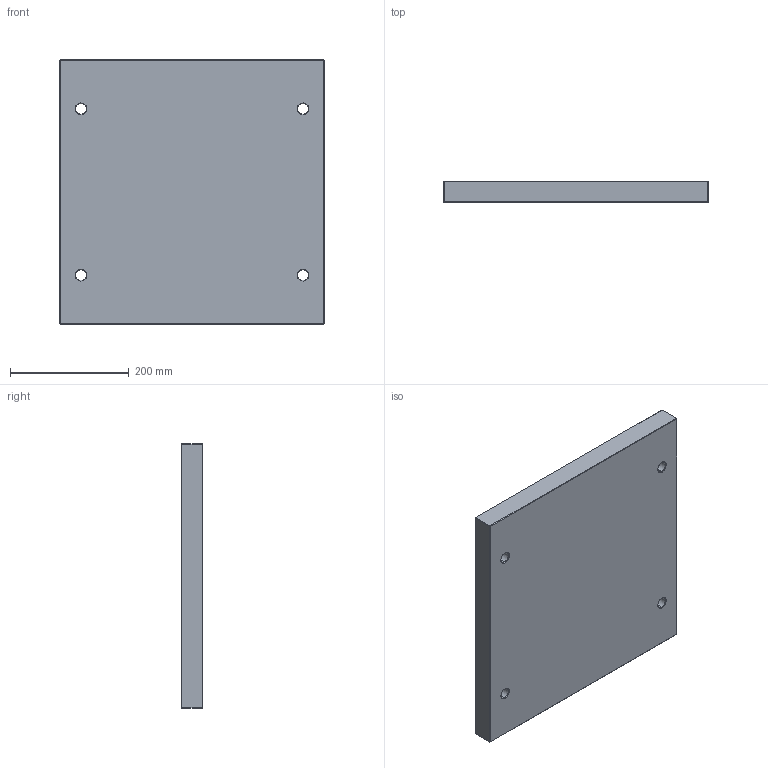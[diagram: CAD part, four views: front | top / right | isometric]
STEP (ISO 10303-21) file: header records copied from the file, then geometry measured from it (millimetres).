
FILE_DESCRIPTION (( 'STEP AP214' ), '1' );
FILE_NAME ('PBAS-446x446x36.STEP', '2020-03-24T16:01:00', ( 'August' ), ( '' ), 'SwSTEP 2.0', 'SolidWorks 2018', '' );
FILE_SCHEMA (( 'AUTOMOTIVE_DESIGN' ));
Length unit declared in the file: millimetre
Products named in the file (1): PBAS-446x446x36
Bounding box: 446 x 36 x 446 mm (x, y, z)
Volume: 7102291.8 mm3; surface area: 467481.9 mm2
Topology: 1 solids, 1 shells, 62 faces, 128 edges, 72 vertices
Faces by surface type: plane 30, cone 16, cylinder 16
Entity records: 1650 total; most frequent: DIRECTION 302, CARTESIAN_POINT 263, ORIENTED_EDGE 256, EDGE_CURVE 128, AXIS2_PLACEMENT_3D 111, VECTOR 80, LINE 80, EDGE_LOOP 74
